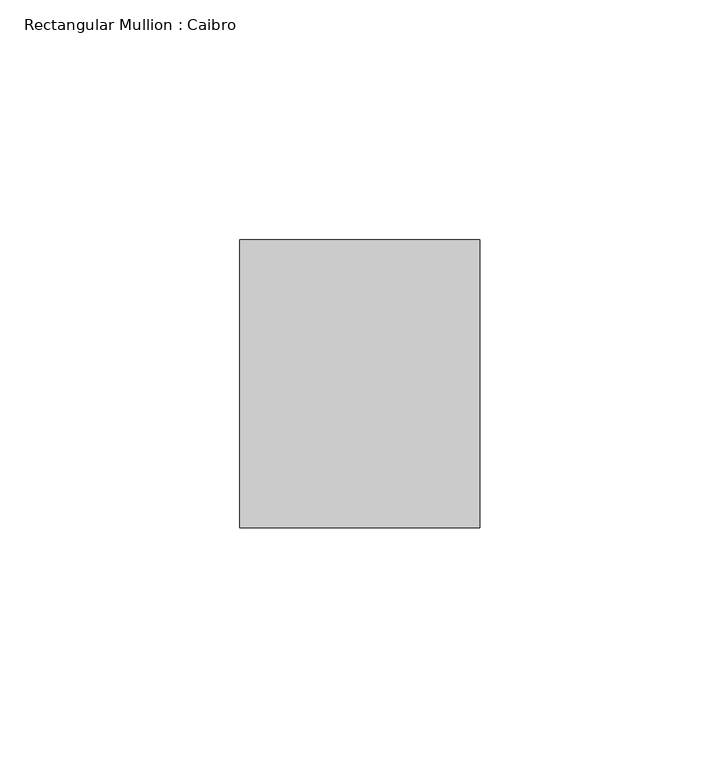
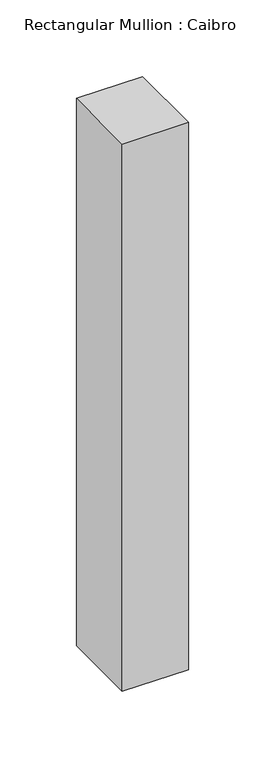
"""IFC4 building model written with IfcOpenShell, lengths in millimetres: member geometry, Rectangular Mullion : Caibro."""

from ifc_helpers import new_model, si_unit, frame, origin, place, context, project, spatial, polyline, outline, extrude, source, transform, mapped, element, save


def rectangular_mullion_caibro_f55aeefc(model_context):
    return source(origin(), model_context, "Body", "SweptSolid", [
        extrude(outline(polyline([(-50.0, -60.0), (-50.0, 0.0), (0.0, 0.0), (0.0, -60.0), (-50.0, -60.0)])), frame((0.0, 0.0, -436.4764043), z_axis=(0.0, 0.0, 1.0), x_axis=(1.0, 0.0, 0.0)), (0.0, 0.0, 1.0), 436.4764043),
    ])


if __name__ == "__main__":
    model = new_model("IFC4")
    model_context = context("Model", 3, world=origin())
    ifc_project = project(units=[si_unit("LENGTHUNIT", "METRE", prefix="MILLI")], contexts=[model_context])
    site = spatial("IfcSite", under=ifc_project)
    building = spatial("IfcBuilding", under=site)
    placement = place(None, origin())
    rectangular_mullion_caibro_shape = rectangular_mullion_caibro_f55aeefc(model_context)
    element("IfcMember", 1, ObjectType="Rectangular Mullion : Caibro", at=placement, inside=building, context=model_context, shape_type="MappedRepresentation", body=[
        mapped(rectangular_mullion_caibro_shape, transform((0.0, 0.0, 0.0), x_axis=(1.0, 0.0, 0.0), y_axis=(0.0, 1.0, 0.0), z_axis=(0.0, 0.0, 1.0))),
    ])
    save(model, "model.ifc")
